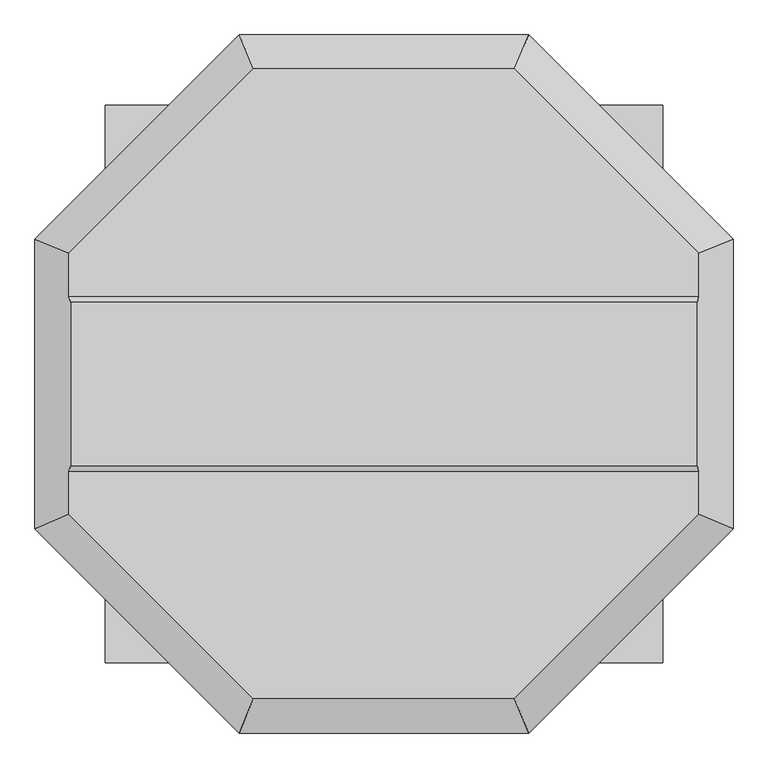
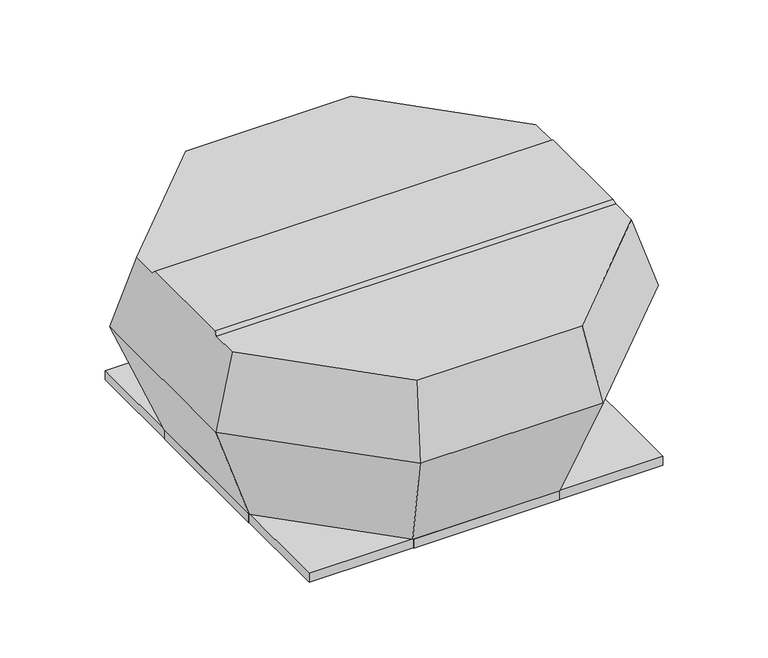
"""IFC4 building model written with IfcOpenShell, lengths in millimetres: unitary equipment geometry, VE-Wentylator-ParaForma-Harmann-VIVER_EC-Wywiewny : 4-630/14100TEC."""

import ifcopenshell
import ifcopenshell.guid

model = None  # the IFC model being written
_history = None  # IfcOwnerHistory: only IFC2X3 demands one
_inside = {}  # id of a spatial element -> (the spatial element, [elements in it])
_under = {}  # id of a project, library or spatial element -> (it, [spatial elements below it])
_declared = {}  # id of a project -> (the project, [libraries it declares])
_typed = {}  # id of a type object -> (the type object, [elements of that type])
_made_of = {}  # id of a material, layer set ... -> (it, [elements and type objects made of it])


def new_model(schema):
    """Start an empty IFC model of exactly this schema.

    Asked for "IFC4X3", IfcOpenShell would pick the latest addendum, in which some entities
    have other attributes; the version numbers below select the first issue.
    IFC2X3 requires an IfcOwnerHistory on every rooted entity: one is made here for all.
    """
    global model, _history
    if schema == "IFC4X3":
        model = ifcopenshell.file(schema_version=(4, 3, 0, 0))
    else:
        model = ifcopenshell.file(schema=schema)
    _inside.clear()
    _under.clear()
    _declared.clear()
    _typed.clear()
    _made_of.clear()
    _history = None
    if model.schema == "IFC2X3":
        org = make("IfcOrganization", Name="unknown")
        user = make(
            "IfcPersonAndOrganization",
            ThePerson=make("IfcPerson", FamilyName="unknown"),
            TheOrganization=org,
        )
        app = make(
            "IfcApplication",
            ApplicationDeveloper=org,
            Version="unknown",
            ApplicationFullName="unknown",
            ApplicationIdentifier="unknown",
        )
        _history = make(
            "IfcOwnerHistory",
            OwningUser=user,
            OwningApplication=app,
            ChangeAction="ADDED",
            CreationDate=0,
        )
    return model


def make(cls, **values):
    """One entity of the class cls with the attributes given. An attribute that is None is left unset."""
    return model.create_entity(
        cls, **{name: value for name, value in values.items() if value is not None}
    )


def rooted(cls, **values):
    """An entity with a GlobalId (a new one), such as an element, a storey or a relation."""
    return make(cls, GlobalId=ifcopenshell.guid.new(), OwnerHistory=_history, **values)


def si_unit(unit_type, name, prefix=None):
    """IfcSIUnit, for example si_unit("LENGTHUNIT", "METRE", prefix="MILLI")."""
    return make("IfcSIUnit", UnitType=unit_type, Prefix=prefix, Name=name)


def assignment(units):
    """IfcUnitAssignment: the units of a project."""
    return None if units is None else make("IfcUnitAssignment", Units=units)


def point(xyz):
    """IfcCartesianPoint."""
    return None if xyz is None else make("IfcCartesianPoint", Coordinates=xyz)


def direction(xyz):
    """IfcDirection."""
    return None if xyz is None else make("IfcDirection", DirectionRatios=xyz)


def frame(location, z_axis=None, x_axis=None):
    """IfcAxis2Placement3D, a coordinate frame: its origin and axes. An axis left out is left unset."""
    return make(
        "IfcAxis2Placement3D",
        Location=point(location),
        Axis=direction(z_axis),
        RefDirection=direction(x_axis),
    )


def origin():
    """The frame at (0, 0, 0) with its axes left unset."""
    return frame((0.0, 0.0, 0.0))


def place(relative_to, where):
    """IfcLocalPlacement: puts the frame where relative to a parent placement (None: the world)."""
    return make(
        "IfcLocalPlacement", PlacementRelTo=relative_to, RelativePlacement=where
    )


def context(
    kind, dimensions, precision=None, world=None, true_north=None, identifier=None
):
    """IfcGeometricRepresentationContext, for example the 3D "Model" context."""
    return make(
        "IfcGeometricRepresentationContext",
        ContextIdentifier=identifier,
        ContextType=kind,
        CoordinateSpaceDimension=dimensions,
        Precision=precision,
        WorldCoordinateSystem=world,
        TrueNorth=true_north,
    )


def project(units=None, contexts=None):
    """IfcProject with its units and contexts."""
    return rooted(
        "IfcProject",
        Name="project",
        RepresentationContexts=contexts,
        UnitsInContext=assignment(units),
    )


def spatial(cls, under=None, at=None, **own):
    """A site, building, storey or space (cls), placed at a placement, below another one or the project."""
    s = rooted(cls, ObjectPlacement=at, **own)
    if under is not None:
        _under.setdefault(under.id(), (under, []))[1].append(s)
    return s


def faces_of(points, faces, orient=None, outer=None):
    """IfcFace entities. A face is a list of loops; a loop is a list of indices into points, from 0.

    orient and outer hold one flag for each loop. By default every Orientation is true, the
    first loop of a face is its IfcFaceOuterBound and the others are IfcFaceBound.
    """
    made = []
    for i, loops in enumerate(faces):
        bounds = []
        for j, loop in enumerate(loops):
            is_outer = j == 0 if outer is None else outer[i][j]
            bounds.append(
                make(
                    "IfcFaceOuterBound" if is_outer else "IfcFaceBound",
                    Bound=make("IfcPolyLoop", Polygon=[points[k] for k in loop]),
                    Orientation=True if orient is None else orient[i][j],
                )
            )
        made.append(make("IfcFace", Bounds=bounds))
    return made


def faceted_brep(points, faces, orient=None, outer=None, voids=None):
    """IfcFacetedBrep: a solid bounded by flat faces; with voids (closed shells), ...WithVoids."""
    shared = [point(p) for p in points]
    hull = make("IfcClosedShell", CfsFaces=faces_of(shared, faces, orient, outer))
    if voids is None:
        return make("IfcFacetedBrep", Outer=hull)
    return make(
        "IfcFacetedBrepWithVoids",
        Outer=hull,
        Voids=[
            make(cls, CfsFaces=faces_of(shared, fs, o, b)) for cls, fs, o, b in voids
        ],
    )


def shape(context_of_items, identifier, shape_type, items):
    """IfcShapeRepresentation: the items that make up one representation, for example the "Body"."""
    return make(
        "IfcShapeRepresentation",
        ContextOfItems=context_of_items,
        RepresentationIdentifier=identifier,
        RepresentationType=shape_type,
        Items=items,
    )


def source(mapping_origin, context_of_items, identifier, shape_type, items):
    """IfcRepresentationMap: a shape defined once, which mapped items show again and again."""
    return make(
        "IfcRepresentationMap",
        MappingOrigin=mapping_origin,
        MappedRepresentation=shape(context_of_items, identifier, shape_type, items),
    )


def transform(
    local_origin,
    x_axis=None,
    y_axis=None,
    z_axis=None,
    scale=None,
    scale2=None,
    scale3=None,
    uniform=True,
):
    """IfcCartesianTransformationOperator3D, or its non-uniform kind. x_axis, y_axis, z_axis: its Axis1, 2, 3."""
    if uniform:
        return make(
            "IfcCartesianTransformationOperator3D",
            Axis1=direction(x_axis),
            Axis2=direction(y_axis),
            LocalOrigin=point(local_origin),
            Scale=scale,
            Axis3=direction(z_axis),
        )
    return make(
        "IfcCartesianTransformationOperator3DnonUniform",
        Axis1=direction(x_axis),
        Axis2=direction(y_axis),
        LocalOrigin=point(local_origin),
        Scale=scale,
        Axis3=direction(z_axis),
        Scale2=scale2,
        Scale3=scale3,
    )


def mapped(mapping_source, mapping_target):
    """IfcMappedItem: shows the shape of a source again, moved by a transform."""
    return make(
        "IfcMappedItem", MappingSource=mapping_source, MappingTarget=mapping_target
    )


def made_of(thing, what):
    """Note that an element or type object is made of a material, layer set ...; save() writes the relation."""
    if what is not None:
        _made_of.setdefault(what.id(), (what, []))[1].append(thing)
    return thing


def element(
    cls,
    number,
    at=None,
    inside=None,
    cuts=None,
    type_object=None,
    material=None,
    context=None,
    identifier="Body",
    shape_type=None,
    held_by="IfcProductDefinitionShape",
    body=None,
    shapes=None,
    **own,
):
    """One element of the class cls, such as IfcWall. Its Tag is "e" and its number.

    at: its placement. inside: the storey or other place that contains it. cuts: it is an
    opening in that element (IfcRelVoidsElement). A single representation is given by context,
    identifier, shape_type and body (its items); several are given by shapes. held_by: the class
    of the entity that holds the representations. save() writes the other relations.
    """
    e = rooted(cls, Tag="e%d" % number, ObjectPlacement=at, **own)
    if body is not None:
        shapes = [shape(context, identifier, shape_type, body)]
    if shapes is not None:
        e.Representation = make(held_by, Representations=shapes)
    if inside is not None:
        _inside.setdefault(inside.id(), (inside, []))[1].append(e)
    if cuts is not None:
        rooted(
            "IfcRelVoidsElement", RelatingBuildingElement=cuts, RelatedOpeningElement=e
        )
    if type_object is not None:
        _typed.setdefault(type_object.id(), (type_object, []))[1].append(e)
    return made_of(e, material)


def aggregate(whole, parts):
    """IfcRelAggregates: a whole, such as a stair, and the parts it consists of."""
    return rooted("IfcRelAggregates", RelatingObject=whole, RelatedObjects=parts)


def save(model, path):
    """Write the relations noted so far, then the file.

    IfcRelAggregates (storeys below a building ...), IfcRelContainedInSpatialStructure (elements
    in a storey), IfcRelDefinesByType, IfcRelAssociatesMaterial and IfcRelDeclares: one each for
    every whole, place, type object, material and project.
    """
    for whole, parts in _under.values():
        aggregate(whole, parts)
    for where, things in _inside.values():
        rooted(
            "IfcRelContainedInSpatialStructure",
            RelatedElements=things,
            RelatingStructure=where,
        )
    for kind, things in _typed.values():
        rooted("IfcRelDefinesByType", RelatedObjects=things, RelatingType=kind)
    for what, things in _made_of.values():
        rooted("IfcRelAssociatesMaterial", RelatedObjects=things, RelatingMaterial=what)
    for by, libraries in _declared.values():
        rooted("IfcRelDeclares", RelatingContext=by, RelatedDefinitions=libraries)
    model.write(path)


def unitary_equipment_ef6876c5(model_context):
    return source(origin(), model_context, "Body", "Brep", [
        faceted_brep([(523.2247523, -136.75, 497.8), (523.2247523, 136.75, 497.8), (-523.2247523, 136.75, 497.8), (-523.2247523, -136.75, 497.8), (525.9364246, 145.75, 488.8), (-525.9364246, 145.75, 488.8), (525.9364246, -145.75, 488.8), (-525.9364246, -145.75, 488.8), (217.85, -525.9364246, 488.8), (525.9364246, -217.85, 488.8), (-525.9364246, -217.85, 488.8), (-217.85, -525.9364246, 488.8), (525.9364246, 217.85, 488.8), (217.85, 525.9364246, 488.8), (-217.85, 525.9364246, 488.8), (-525.9364246, 217.85, 488.8), (241.4, -582.791154, 300.1), (582.791154, -241.4, 300.1), (582.791154, 241.4, 300.1), (241.4, 582.791154, 300.1), (-241.4, 582.791154, 300.1), (-582.791154, 241.4, 300.1), (-582.791154, -241.4, 300.1), (-241.4, -582.791154, 300.1), (193.3, -466.6674816, 1.5), (-193.3, -466.6674816, 1.5), (-466.6674816, -193.3, 1.5), (-466.6674816, 193.3, 1.5), (-193.3, 466.6674816, 1.5), (193.3, 466.6674816, 1.5), (466.6674816, 193.3, 1.5), (466.6674816, -193.3, 1.5)], [[[0, 1, 2, 3]], [[1, 4, 5, 2]], [[6, 0, 3, 7]], [[8, 9, 6, 7, 10, 11]], [[12, 13, 14, 15, 5, 4]], [[9, 8, 16, 17]], [[9, 17, 18, 12, 4, 1, 0, 6]], [[13, 12, 18, 19]], [[14, 13, 19, 20]], [[15, 14, 20, 21]], [[15, 21, 22, 10, 7, 3, 2, 5]], [[11, 10, 22, 23]], [[8, 11, 23, 16]], [[24, 25, 26, 27, 28, 29, 30, 31]], [[24, 31, 17, 16]], [[31, 30, 18, 17]], [[30, 29, 19, 18]], [[29, 28, 20, 19]], [[28, 27, 21, 20]], [[27, 26, 22, 21]], [[26, 25, 23, 22]], [[25, 24, 16, 23]]]),
        faceted_brep([(464.05, 464.05, -23.5), (464.05, 464.05, 0.0), (-464.05, 464.05, 0.0), (-464.05, 464.05, -23.5), (465.55, 465.55, 1.5), (465.55, 465.55, -23.5), (-465.55, 465.55, -23.5), (-465.55, 465.55, 1.5), (-464.05, -464.05, 0.0), (-464.05, -464.05, -23.5), (-465.55, -465.55, -23.5), (-465.55, -465.55, 1.5), (464.05, -464.05, 0.0), (464.05, -464.05, -23.5), (465.55, -465.55, -23.5), (465.55, -465.55, 1.5)], [[[0, 1, 2, 3]], [[4, 5, 6, 7]], [[3, 2, 8, 9]], [[7, 6, 10, 11]], [[9, 8, 12, 13]], [[11, 10, 14, 15]], [[13, 12, 1, 0]], [[5, 14, 10, 6], [3, 9, 13, 0]], [[15, 14, 5, 4]], [[7, 11, 15, 4]], [[1, 12, 8, 2]]]),
        faceted_brep([(-465.6, -191.6, -23.5), (-466.6, -191.6, -23.5), (-466.6, 191.6, -23.5), (-465.6, 191.6, -23.5), (-465.6, -191.6, 1.5), (-465.6, 191.6, 1.5), (-466.6, 191.6, 1.5), (-466.6, -191.6, 1.5)], [[[0, 1, 2, 3]], [[4, 5, 6, 7]], [[1, 0, 4, 7]], [[2, 1, 7, 6]], [[3, 2, 6, 5]], [[0, 3, 5, 4]]]),
        faceted_brep([(466.6, -191.6, -23.5), (465.6, -191.6, -23.5), (465.6, 191.6, -23.5), (466.6, 191.6, -23.5), (466.6, 191.6, 1.5), (465.6, 191.6, 1.5), (465.6, 5.0, 1.5), (465.6, -5.0, 1.5), (465.6, -191.6, 1.5), (466.6, -191.6, 1.5), (466.6, -5.0, 1.5), (466.6, 5.0, 1.5)], [[[0, 1, 2, 3]], [[4, 5, 6, 7, 8, 9, 10, 11]], [[1, 0, 9, 8]], [[2, 1, 8, 7, 6, 5]], [[3, 2, 5, 4]], [[0, 3, 4, 11, 10, 9]]]),
        faceted_brep([(191.6, 465.6, -23.5), (-191.6, 465.6, -23.5), (-191.6, 466.6, -23.5), (191.6, 466.6, -23.5), (191.6, 465.6, 1.5), (191.6, 466.6, 1.5), (-191.6, 466.6, 1.5), (-191.6, 465.6, 1.5)], [[[0, 1, 2, 3]], [[4, 5, 6, 7]], [[1, 0, 4, 7]], [[2, 1, 7, 6]], [[3, 2, 6, 5]], [[0, 3, 5, 4]]]),
        faceted_brep([(191.6, -466.6, -23.5), (-191.6, -466.6, -23.5), (-191.6, -465.6, -23.5), (191.6, -465.6, -23.5), (191.6, -466.6, 1.5), (191.6, -465.6, 1.5), (-191.6, -465.6, 1.5), (-191.6, -466.6, 1.5)], [[[0, 1, 2, 3]], [[4, 5, 6, 7]], [[1, 0, 4, 7]], [[2, 1, 7, 6]], [[3, 2, 6, 5]], [[0, 3, 5, 4]]]),
    ])


if __name__ == "__main__":
    model = new_model("IFC4")
    model_context = context("Model", 3, world=origin())
    ifc_project = project(units=[si_unit("LENGTHUNIT", "METRE", prefix="MILLI")], contexts=[model_context])
    site = spatial("IfcSite", under=ifc_project)
    building = spatial("IfcBuilding", under=site)
    placement = place(None, origin())
    unitary_equipment_shape = unitary_equipment_ef6876c5(model_context)
    element("IfcUnitaryEquipment", 1, ObjectType="VE-Wentylator-ParaForma-Harmann-VIVER_EC-Wywiewny : 4-630/14100TEC", at=placement, inside=building, context=model_context, shape_type="MappedRepresentation", body=[
        mapped(unitary_equipment_shape, transform((0.0, 0.0, 0.0), x_axis=(1.0, 0.0, 0.0), y_axis=(0.0, 1.0, 0.0), z_axis=(0.0, 0.0, 1.0))),
    ])
    save(model, "model.ifc")
